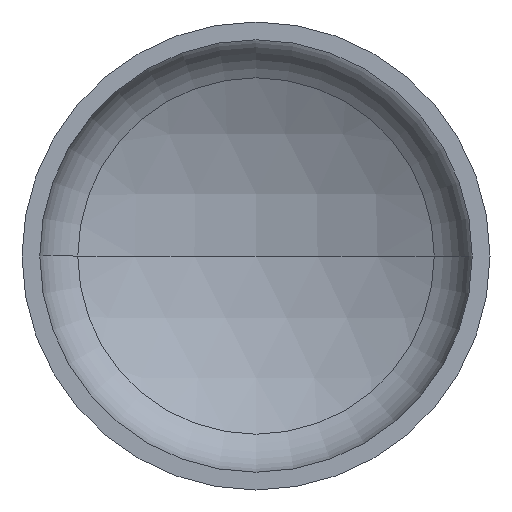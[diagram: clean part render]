
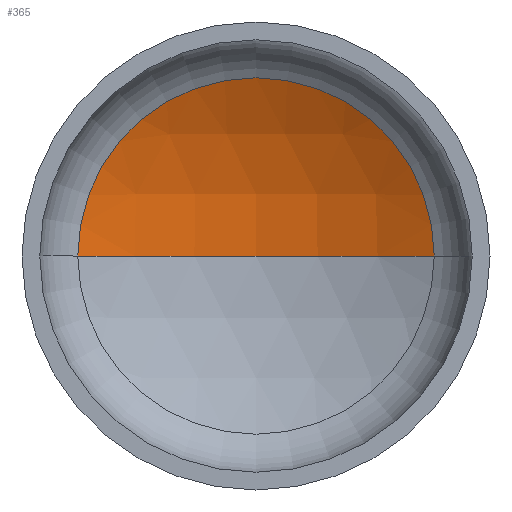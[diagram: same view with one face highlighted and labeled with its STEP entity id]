
A CAD part, front view. The second image highlights one B-rep face of the part: STEP entity #365.
In plain terms, the highlighted spherical face has radius 1600 mm.
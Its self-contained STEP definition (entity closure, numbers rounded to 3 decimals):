
#12 = EDGE_LOOP ( 'NONE', ( #409, #127, #93 ) ) ;
#13 = AXIS2_PLACEMENT_3D ( 'NONE', #361, #245, #53 ) ;
#14 = VERTEX_POINT ( 'NONE', #300 ) ;
#17 = DIRECTION ( 'NONE',  ( 1., 0., 0. ) ) ;
#19 = DIRECTION ( 'NONE',  ( -1., 0., 0. ) ) ;
#21 = DIRECTION ( 'NONE',  ( 0., 0., -1. ) ) ;
#30 = CARTESIAN_POINT ( 'NONE',  ( 0., -1014.506, 0. ) ) ;
#53 = DIRECTION ( 'NONE',  ( -1., 0., 0. ) ) ;
#75 = VERTEX_POINT ( 'NONE', #248 ) ;
#77 = AXIS2_PLACEMENT_3D ( 'NONE', #197, #216, #217 ) ;
#81 = AXIS2_PLACEMENT_3D ( 'NONE', #30, #21, #19 ) ;
#83 = AXIS2_PLACEMENT_3D ( 'NONE', #364, #225, #17 ) ;
#93 = ORIENTED_EDGE ( 'NONE', *, *, #148, .T. ) ;
#111 = VERTEX_POINT ( 'NONE', #256 ) ;
#116 = CIRCLE ( 'NONE', #77, 1600. ) ;
#127 = ORIENTED_EDGE ( 'NONE', *, *, #149, .T. ) ;
#141 = CIRCLE ( 'NONE', #83, 761.55 ) ;
#148 = EDGE_CURVE ( 'NONE', #75, #111, #141, .T. ) ;
#149 = EDGE_CURVE ( 'NONE', #14, #75, #326, .T. ) ;
#160 = EDGE_CURVE ( 'NONE', #14, #111, #116, .T. ) ;
#168 = FACE_OUTER_BOUND ( 'NONE', #12, .T. ) ;
#197 = CARTESIAN_POINT ( 'NONE',  ( 0., -1014.506, 0. ) ) ;
#216 = DIRECTION ( 'NONE',  ( 0., 0., 1. ) ) ;
#217 = DIRECTION ( 'NONE',  ( 1., 0., 0. ) ) ;
#225 = DIRECTION ( 'NONE',  ( 0., -1., 0. ) ) ;
#245 = DIRECTION ( 'NONE',  ( 0., 0., -1. ) ) ;
#248 = CARTESIAN_POINT ( 'NONE',  ( 761.55, 392.633, 0. ) ) ;
#256 = CARTESIAN_POINT ( 'NONE',  ( -761.55, 392.633, 0. ) ) ;
#286 = SPHERICAL_SURFACE ( 'NONE', #13, 1600. ) ;
#300 = CARTESIAN_POINT ( 'NONE',  ( 0., 585.494, 0. ) ) ;
#326 = CIRCLE ( 'NONE', #81, 1600. ) ;
#361 = CARTESIAN_POINT ( 'NONE',  ( 0., -1014.506, 0. ) ) ;
#364 = CARTESIAN_POINT ( 'NONE',  ( 0., 392.633, 0. ) ) ;
#365 = ADVANCED_FACE ( 'NONE', ( #168 ), #286, .F. ) ;
#409 = ORIENTED_EDGE ( 'NONE', *, *, #160, .F. ) ;
